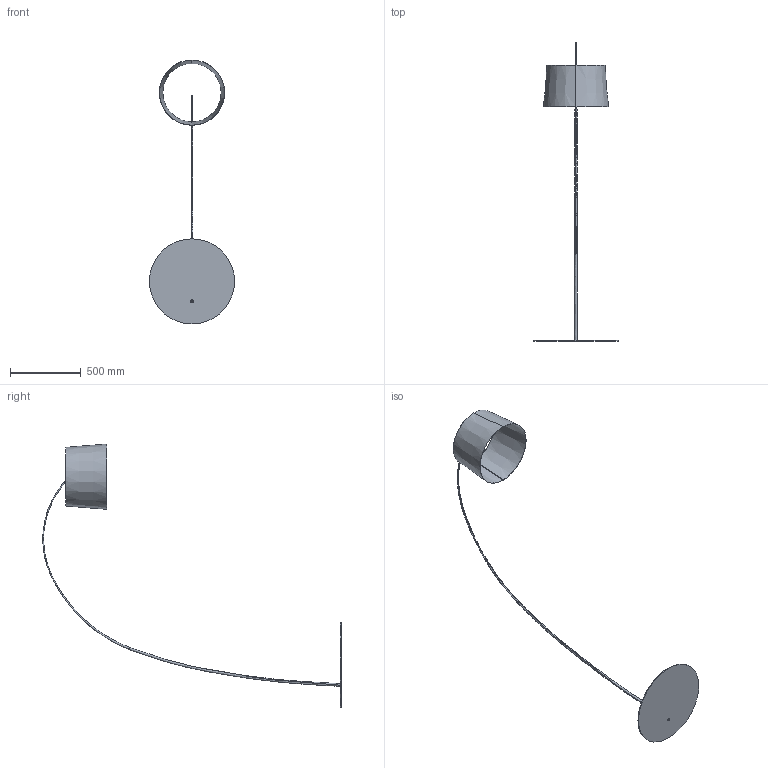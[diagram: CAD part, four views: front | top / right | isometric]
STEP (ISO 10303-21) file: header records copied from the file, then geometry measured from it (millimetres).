
FILE_DESCRIPTION (( 'STEP AP214' ), '1' );
FILE_NAME ('159_STD_F_LD_2D.STEP', '2021-04-27T12:45:04', ( '' ), ( '' ), 'SwSTEP 2.0', 'SolidWorks 2021', '' );
FILE_SCHEMA (( 'AUTOMOTIVE_DESIGN' ));
Length unit declared in the file: millimetre
Products named in the file (1): 159_STD_F_LD_2D
Bounding box: 600 x 2102.87 x 1860.55 mm (x, y, z)
Volume: 2214597.2 mm3; surface area: 1617185.5 mm2
Topology: 4 solids, 4 shells, 37 faces, 83 edges, 51 vertices
Faces by surface type: cone 11, plane 10, bspline 8, cylinder 8
Entity records: 10445 total; most frequent: CARTESIAN_POINT 9188, ORIENTED_EDGE 166, DIRECTION 141, EDGE_CURVE 83, AXIS2_PLACEMENT_3D 58, VERTEX_POINT 51, EDGE_LOOP 46, UNCERTAINTY_MEASURE_WITH_UNIT 43
